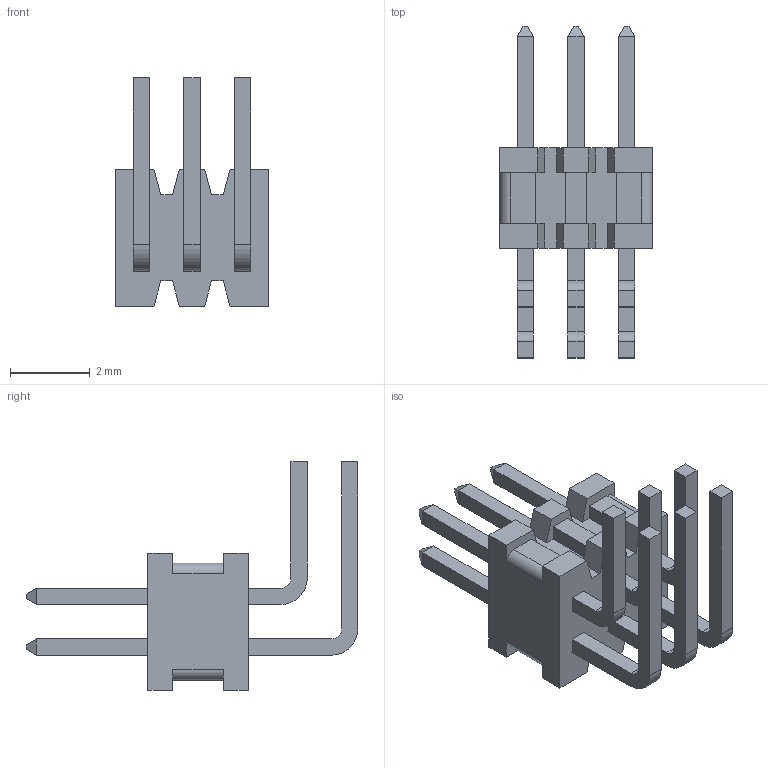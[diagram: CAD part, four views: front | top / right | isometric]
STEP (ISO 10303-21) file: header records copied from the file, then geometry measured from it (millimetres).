
FILE_DESCRIPTION (( 'STEP AP214' ), '1' );
FILE_NAME ('6.STEP', '2020-06-10T11:36:27', ( '' ), ( '' ), 'SwSTEP 2.0', 'SolidWorks 2018', '' );
FILE_SCHEMA (( 'AUTOMOTIVE_DESIGN' ));
Length unit declared in the file: inch
Products named in the file (1): 6
Bounding box: 3.81 x 8.31 x 5.71 mm (x, y, z)
Volume: 35.9 mm3; surface area: 205.9 mm2
Topology: 13 solids, 13 shells, 210 faces, 528 edges, 344 vertices
Faces by surface type: plane 194, cylinder 16
Entity records: 6868 total; most frequent: CARTESIAN_POINT 1083, ORIENTED_EDGE 1056, DIRECTION 982, EDGE_CURVE 528, LINE 496, VECTOR 496, VERTEX_POINT 344, AXIS2_PLACEMENT_3D 243
